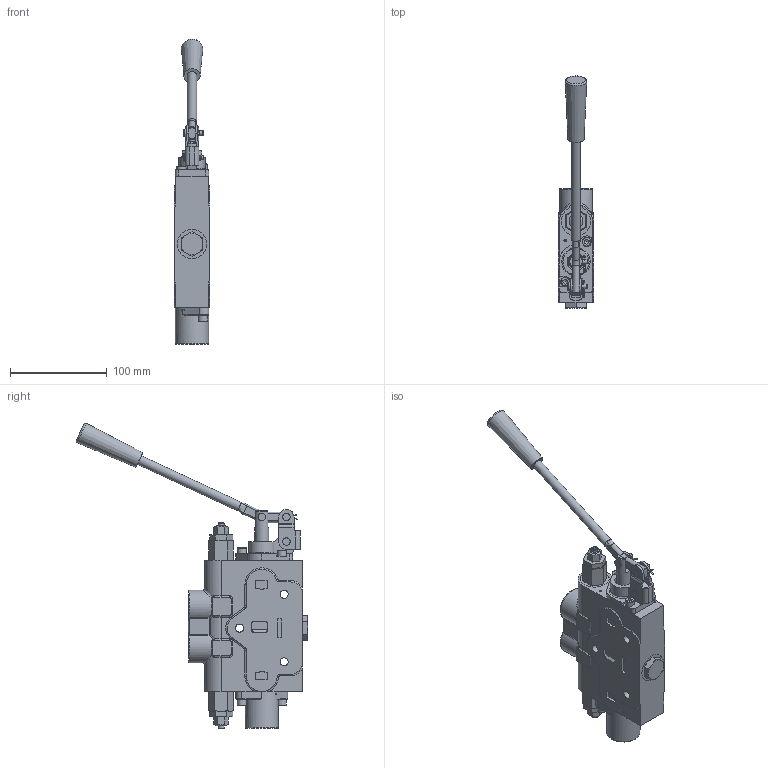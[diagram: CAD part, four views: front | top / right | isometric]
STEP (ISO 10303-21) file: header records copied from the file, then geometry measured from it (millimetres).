
FILE_DESCRIPTION((''),'2;1');
FILE_NAME('C:\Vault\Workspace\z_ShellModels\SV\SVH1xA1GG_Shell.stp','2012-02-09T11:27:41',('PetersW'),(''),'Autodesk Inventor 2011','Autodesk Inventor 2011','');
FILE_SCHEMA(('AUTOMOTIVE_DESIGN { 1 0 10303 214 1 1 1 1 }'));
Length unit declared in the file: inch
Products named in the file (1): Part49
Bounding box: 36.61 x 239.54 x 316 mm (x, y, z)
Volume: 547844.7 mm3; surface area: 111224.9 mm2
Topology: 10 solids, 33 shells, 1042 faces, 2662 edges, 1691 vertices
Faces by surface type: plane 550, cylinder 269, cone 85, torus 74, bspline 60, sphere 4
Full cylindrical faces by diameter (mm): 2.381 x1, 2.388 x2, 2.667 x1, 4.661 x3, 4.75 x8, 4.801 x2, 4.826 x7, 4.978 x4, 6.096 x3, 6.35 x4, 6.731 x4, 7.137 x2, 7.797 x1, 7.798 x1, 7.925 x3, 8.331 x3, 9.525 x5, 9.931 x1, 11.125 x1, 12.7 x2, 12.764 x1, 13.462 x6, 14.275 x1, 15.875 x5, 15.913 x6, 16.751 x1, 16.764 x4, 17.475 x1, 17.501 x5, 17.78 x1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
Entity records: 32613 total; most frequent: CARTESIAN_POINT 7567, DIRECTION 4919, ORIENTED_EDGE 4794, EDGE_CURVE 2397, AXIS2_PLACEMENT_3D 1782, VERTEX_POINT 1601, VECTOR 1355, LINE 1355
